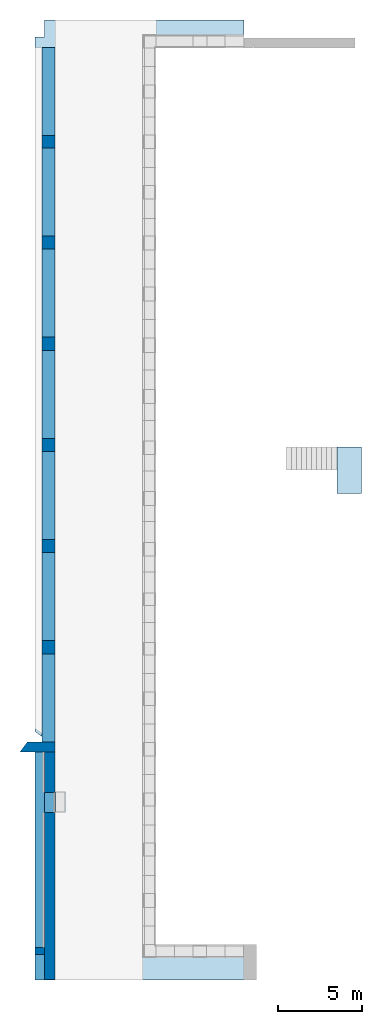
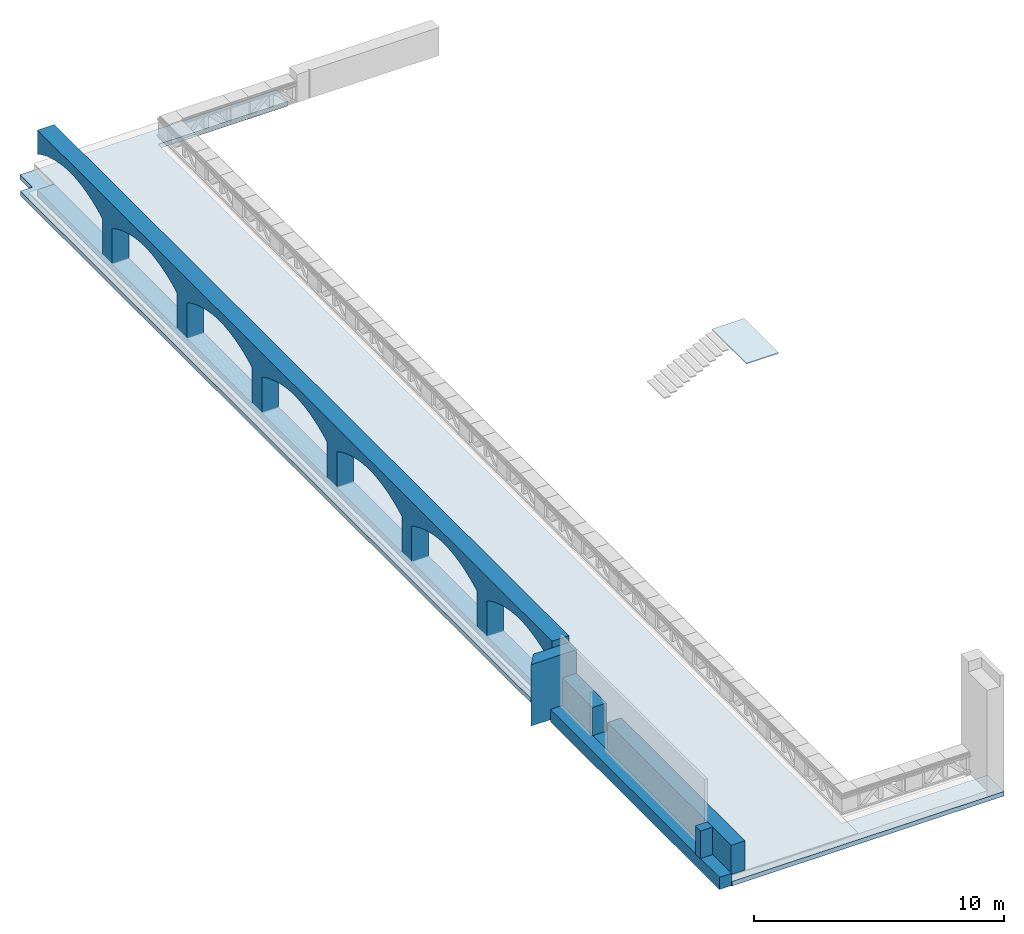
# One storey, part 1 of 9: 4 walls, 3 slabs, 16 openings, 2 elements without a shape of their own.
"""IFC2X3 building model written with IfcOpenShell, lengths in millimetres."""

import ifcopenshell
import ifcopenshell.guid

model = None  # the IFC model being written
_history = None  # IfcOwnerHistory: only IFC2X3 demands one
_inside = {}  # id of a spatial element -> (the spatial element, [elements in it])
_under = {}  # id of a project, library or spatial element -> (it, [spatial elements below it])
_declared = {}  # id of a project -> (the project, [libraries it declares])
_typed = {}  # id of a type object -> (the type object, [elements of that type])
_made_of = {}  # id of a material, layer set ... -> (it, [elements and type objects made of it])


def new_model(schema):
    """Start an empty IFC model of exactly this schema.

    Asked for "IFC4X3", IfcOpenShell would pick the latest addendum, in which some entities
    have other attributes; the version numbers below select the first issue.
    IFC2X3 requires an IfcOwnerHistory on every rooted entity: one is made here for all.
    """
    global model, _history
    if schema == "IFC4X3":
        model = ifcopenshell.file(schema_version=(4, 3, 0, 0))
    else:
        model = ifcopenshell.file(schema=schema)
    _inside.clear()
    _under.clear()
    _declared.clear()
    _typed.clear()
    _made_of.clear()
    _history = None
    if model.schema == "IFC2X3":
        org = make("IfcOrganization", Name="unknown")
        user = make(
            "IfcPersonAndOrganization",
            ThePerson=make("IfcPerson", FamilyName="unknown"),
            TheOrganization=org,
        )
        app = make(
            "IfcApplication",
            ApplicationDeveloper=org,
            Version="unknown",
            ApplicationFullName="unknown",
            ApplicationIdentifier="unknown",
        )
        _history = make(
            "IfcOwnerHistory",
            OwningUser=user,
            OwningApplication=app,
            ChangeAction="ADDED",
            CreationDate=0,
        )
    return model


def make(cls, **values):
    """One entity of the class cls with the attributes given. An attribute that is None is left unset."""
    return model.create_entity(
        cls, **{name: value for name, value in values.items() if value is not None}
    )


def entity(cls, *values):
    """Any entity or typed value of the class cls, its attributes in the order of the schema. None: left unset."""
    e = model.create_entity(cls)
    for i, value in enumerate(values):
        if value is not None:
            e[i] = value
    return e


def rooted(cls, **values):
    """An entity with a GlobalId (a new one), such as an element, a storey or a relation."""
    return make(cls, GlobalId=ifcopenshell.guid.new(), OwnerHistory=_history, **values)


def si_unit(unit_type, name, prefix=None):
    """IfcSIUnit, for example si_unit("LENGTHUNIT", "METRE", prefix="MILLI")."""
    return make("IfcSIUnit", UnitType=unit_type, Prefix=prefix, Name=name)


def converted_unit(unit_type, name, factor, base, dimensions=None, offset=None):
    """IfcConversionBasedUnit, such as the inch: factor (a typed value) times the base unit."""
    return make(
        "IfcConversionBasedUnit"
        if offset is None
        else "IfcConversionBasedUnitWithOffset",
        ConversionOffset=offset,
        Dimensions=None
        if dimensions is None
        else entity("IfcDimensionalExponents", *dimensions),
        UnitType=unit_type,
        Name=name,
        ConversionFactor=make(
            "IfcMeasureWithUnit", ValueComponent=factor, UnitComponent=base
        ),
    )


def derived_unit(unit_type, elements):
    """IfcDerivedUnit: a product of units, each with its exponent."""
    return make(
        "IfcDerivedUnit",
        Elements=[
            make("IfcDerivedUnitElement", Unit=unit, Exponent=power)
            for unit, power in elements
        ],
        UnitType=unit_type,
    )


def assignment(units):
    """IfcUnitAssignment: the units of a project."""
    return None if units is None else make("IfcUnitAssignment", Units=units)


def point(xyz):
    """IfcCartesianPoint."""
    return None if xyz is None else make("IfcCartesianPoint", Coordinates=xyz)


def direction(xyz):
    """IfcDirection."""
    return None if xyz is None else make("IfcDirection", DirectionRatios=xyz)


def frame(location, z_axis=None, x_axis=None):
    """IfcAxis2Placement3D, a coordinate frame: its origin and axes. An axis left out is left unset."""
    return make(
        "IfcAxis2Placement3D",
        Location=point(location),
        Axis=direction(z_axis),
        RefDirection=direction(x_axis),
    )


def frame_2d(location, x_axis=None):
    """IfcAxis2Placement2D, a coordinate frame in the plane: its origin and x axis."""
    return make(
        "IfcAxis2Placement2D", Location=point(location), RefDirection=direction(x_axis)
    )


def origin():
    """The frame at (0, 0, 0) with its axes left unset."""
    return frame((0.0, 0.0, 0.0))


def place(relative_to, where):
    """IfcLocalPlacement: puts the frame where relative to a parent placement (None: the world)."""
    return make(
        "IfcLocalPlacement", PlacementRelTo=relative_to, RelativePlacement=where
    )


def context(
    kind, dimensions, precision=None, world=None, true_north=None, identifier=None
):
    """IfcGeometricRepresentationContext, for example the 3D "Model" context."""
    return make(
        "IfcGeometricRepresentationContext",
        ContextIdentifier=identifier,
        ContextType=kind,
        CoordinateSpaceDimension=dimensions,
        Precision=precision,
        WorldCoordinateSystem=world,
        TrueNorth=true_north,
    )


def subcontext(parent, identifier, kind, view, scale=None):
    """IfcGeometricRepresentationSubContext, for example "Body" below "Model"."""
    return make(
        "IfcGeometricRepresentationSubContext",
        ContextIdentifier=identifier,
        ContextType=kind,
        ParentContext=parent,
        TargetScale=scale,
        TargetView=view,
    )


def project(units=None, contexts=None):
    """IfcProject with its units and contexts."""
    return rooted(
        "IfcProject",
        Name="project",
        RepresentationContexts=contexts,
        UnitsInContext=assignment(units),
    )


def spatial(cls, under=None, at=None, **own):
    """A site, building, storey or space (cls), placed at a placement, below another one or the project."""
    s = rooted(cls, ObjectPlacement=at, **own)
    if under is not None:
        _under.setdefault(under.id(), (under, []))[1].append(s)
    return s


def polyline(points):
    """IfcPolyline through the points."""
    return make("IfcPolyline", Points=[point(p) for p in points])


def circle_curve(where, radius):
    """IfcCircle in the frame where."""
    return make("IfcCircle", Position=where, Radius=radius)


def parameter(value):
    """IfcParameterValue: where a trimmed curve begins or ends, as a parameter of its basis curve."""
    return model.create_entity("IfcParameterValue", value)


def trimmed(basis, trim1, trim2, sense, master):
    """IfcTrimmedCurve: the piece of a basis curve between two trims."""
    return make(
        "IfcTrimmedCurve",
        BasisCurve=basis,
        Trim1=trim1,
        Trim2=trim2,
        SenseAgreement=sense,
        MasterRepresentation=master,
    )


def segment(curve, same_sense, transition):
    """IfcCompositeCurveSegment."""
    return make(
        "IfcCompositeCurveSegment",
        Transition=transition,
        SameSense=same_sense,
        ParentCurve=curve,
    )


def composite_curve(segments, self_intersect=None):
    """IfcCompositeCurve: segments joined end to end."""
    return make("IfcCompositeCurve", Segments=segments, SelfIntersect=self_intersect)


def profile(cls, at=None, kind="AREA", **sizes):
    """A parametric profile (cls). Its sizes go by their IFC names, for example OverallWidth=200.0."""
    return make(cls, ProfileType=kind, Position=at, **sizes)


def rectangle(**sizes):
    """IfcRectangleProfileDef."""
    return profile("IfcRectangleProfileDef", **sizes)


def outline(outer, holes=None, kind="AREA"):
    """IfcArbitraryClosedProfileDef: a profile drawn as a closed curve; with holes, ...WithVoids."""
    if holes is None:
        return make("IfcArbitraryClosedProfileDef", ProfileType=kind, OuterCurve=outer)
    return make(
        "IfcArbitraryProfileDefWithVoids",
        ProfileType=kind,
        OuterCurve=outer,
        InnerCurves=holes,
    )


def extrude(swept, where, along, depth):
    """IfcExtrudedAreaSolid: the profile swept, set in the frame where, extruded along a direction by depth."""
    return make(
        "IfcExtrudedAreaSolid",
        SweptArea=swept,
        Position=where,
        ExtrudedDirection=direction(along),
        Depth=depth,
    )


def faces_of(points, faces, orient=None, outer=None):
    """IfcFace entities. A face is a list of loops; a loop is a list of indices into points, from 0.

    orient and outer hold one flag for each loop. By default every Orientation is true, the
    first loop of a face is its IfcFaceOuterBound and the others are IfcFaceBound.
    """
    made = []
    for i, loops in enumerate(faces):
        bounds = []
        for j, loop in enumerate(loops):
            is_outer = j == 0 if outer is None else outer[i][j]
            bounds.append(
                make(
                    "IfcFaceOuterBound" if is_outer else "IfcFaceBound",
                    Bound=make("IfcPolyLoop", Polygon=[points[k] for k in loop]),
                    Orientation=True if orient is None else orient[i][j],
                )
            )
        made.append(make("IfcFace", Bounds=bounds))
    return made


def faceted_brep(points, faces, orient=None, outer=None, voids=None):
    """IfcFacetedBrep: a solid bounded by flat faces; with voids (closed shells), ...WithVoids."""
    shared = [point(p) for p in points]
    hull = make("IfcClosedShell", CfsFaces=faces_of(shared, faces, orient, outer))
    if voids is None:
        return make("IfcFacetedBrep", Outer=hull)
    return make(
        "IfcFacetedBrepWithVoids",
        Outer=hull,
        Voids=[
            make(cls, CfsFaces=faces_of(shared, fs, o, b)) for cls, fs, o, b in voids
        ],
    )


def shape(context_of_items, identifier, shape_type, items):
    """IfcShapeRepresentation: the items that make up one representation, for example the "Body"."""
    return make(
        "IfcShapeRepresentation",
        ContextOfItems=context_of_items,
        RepresentationIdentifier=identifier,
        RepresentationType=shape_type,
        Items=items,
    )


def material(Name=None, Category=None):
    """IfcMaterial."""
    return make("IfcMaterial", Name=Name, Category=Category)


def layer(
    of_material, thickness, ventilated=None, Name=None, Category=None, Priority=None
):
    """IfcMaterialLayer: one layer of a wall or slab, of a material (None: an air gap)."""
    return make(
        "IfcMaterialLayer",
        Material=of_material,
        LayerThickness=thickness,
        IsVentilated=ventilated,
        Name=Name,
        Category=Category,
        Priority=Priority,
    )


def layer_set(layers, Name=None):
    """IfcMaterialLayerSet."""
    return make("IfcMaterialLayerSet", MaterialLayers=layers, LayerSetName=Name)


def layer_usage(for_layer_set, set_direction, sense, offset, extent=None):
    """IfcMaterialLayerSetUsage: how a layer set lies in its element."""
    return make(
        "IfcMaterialLayerSetUsage",
        ForLayerSet=for_layer_set,
        LayerSetDirection=set_direction,
        DirectionSense=sense,
        OffsetFromReferenceLine=offset,
        ReferenceExtent=extent,
    )


def made_of(thing, what):
    """Note that an element or type object is made of a material, layer set ...; save() writes the relation."""
    if what is not None:
        _made_of.setdefault(what.id(), (what, []))[1].append(thing)
    return thing


def type_object(cls, material=None, **own):
    """A type object (cls), such as IfcWallType, which elements share."""
    return made_of(rooted(cls, **own), material)


def element(
    cls,
    number,
    at=None,
    inside=None,
    cuts=None,
    type_object=None,
    material=None,
    context=None,
    identifier="Body",
    shape_type=None,
    held_by="IfcProductDefinitionShape",
    body=None,
    shapes=None,
    **own,
):
    """One element of the class cls, such as IfcWall. Its Tag is "e" and its number.

    at: its placement. inside: the storey or other place that contains it. cuts: it is an
    opening in that element (IfcRelVoidsElement). A single representation is given by context,
    identifier, shape_type and body (its items); several are given by shapes. held_by: the class
    of the entity that holds the representations. save() writes the other relations.
    """
    e = rooted(cls, Tag="e%d" % number, ObjectPlacement=at, **own)
    if body is not None:
        shapes = [shape(context, identifier, shape_type, body)]
    if shapes is not None:
        e.Representation = make(held_by, Representations=shapes)
    if inside is not None:
        _inside.setdefault(inside.id(), (inside, []))[1].append(e)
    if cuts is not None:
        rooted(
            "IfcRelVoidsElement", RelatingBuildingElement=cuts, RelatedOpeningElement=e
        )
    if type_object is not None:
        _typed.setdefault(type_object.id(), (type_object, []))[1].append(e)
    return made_of(e, material)


def aggregate(whole, parts):
    """IfcRelAggregates: a whole, such as a stair, and the parts it consists of."""
    return rooted("IfcRelAggregates", RelatingObject=whole, RelatedObjects=parts)


def save(model, path):
    """Write the relations noted so far, then the file.

    IfcRelAggregates (storeys below a building ...), IfcRelContainedInSpatialStructure (elements
    in a storey), IfcRelDefinesByType, IfcRelAssociatesMaterial and IfcRelDeclares: one each for
    every whole, place, type object, material and project.
    """
    for whole, parts in _under.values():
        aggregate(whole, parts)
    for where, things in _inside.values():
        rooted(
            "IfcRelContainedInSpatialStructure",
            RelatedElements=things,
            RelatingStructure=where,
        )
    for kind, things in _typed.values():
        rooted("IfcRelDefinesByType", RelatedObjects=things, RelatingType=kind)
    for what, things in _made_of.values():
        rooted("IfcRelAssociatesMaterial", RelatedObjects=things, RelatingMaterial=what)
    for by, libraries in _declared.values():
        rooted("IfcRelDeclares", RelatingContext=by, RelatedDefinitions=libraries)
    model.write(path)


model = new_model("IFC2X3")

# Units and contexts
model_context = context("Model", 3, precision=0.01, world=origin(), true_north=direction((6.123031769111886e-17, 1.0)))
body_context = subcontext(model_context, "Body", "Model", "MODEL_VIEW")
ifc_project = project(units=[si_unit("LENGTHUNIT", "METRE", prefix="MILLI"), si_unit("AREAUNIT", "SQUARE_METRE"), si_unit("VOLUMEUNIT", "CUBIC_METRE"), converted_unit("PLANEANGLEUNIT", "DEGREE", entity("IfcPlaneAngleMeasure", 0.017453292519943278), si_unit("PLANEANGLEUNIT", "RADIAN"), dimensions=[0, 0, 0, 0, 0, 0, 0]), si_unit("MASSUNIT", "GRAM", prefix="KILO"), derived_unit("MASSDENSITYUNIT", [(si_unit("MASSUNIT", "GRAM", prefix="KILO"), 1), (si_unit("LENGTHUNIT", "METRE"), -3)]), derived_unit("IONCONCENTRATIONUNIT", [(si_unit("MASSUNIT", "GRAM", prefix="KILO"), 1), (si_unit("LENGTHUNIT", "METRE"), -3)]), derived_unit("MOMENTOFINERTIAUNIT", [(si_unit("LENGTHUNIT", "METRE"), 4)]), si_unit("TIMEUNIT", "SECOND"), si_unit("FREQUENCYUNIT", "HERTZ"), si_unit("THERMODYNAMICTEMPERATUREUNIT", "DEGREE_CELSIUS"), derived_unit("THERMALTRANSMITTANCEUNIT", [(si_unit("MASSUNIT", "GRAM", prefix="KILO"), 1), (si_unit("THERMODYNAMICTEMPERATUREUNIT", "KELVIN"), -1), (si_unit("TIMEUNIT", "SECOND"), -3)]), derived_unit("THERMALCONDUCTANCEUNIT", [(si_unit("MASSUNIT", "GRAM", prefix="KILO"), 1), (si_unit("THERMODYNAMICTEMPERATUREUNIT", "KELVIN"), -1), (si_unit("TIMEUNIT", "SECOND"), -3), (si_unit("LENGTHUNIT", "METRE"), 1)]), derived_unit("VOLUMETRICFLOWRATEUNIT", [(si_unit("LENGTHUNIT", "METRE", prefix="DECI"), 3), (si_unit("TIMEUNIT", "SECOND"), -1)]), derived_unit("MASSFLOWRATEUNIT", [(si_unit("MASSUNIT", "GRAM", prefix="KILO"), 1), (si_unit("TIMEUNIT", "SECOND"), -1)]), derived_unit("ROTATIONALFREQUENCYUNIT", [(si_unit("TIMEUNIT", "SECOND"), -1)]), si_unit("ELECTRICCURRENTUNIT", "AMPERE"), si_unit("ELECTRICVOLTAGEUNIT", "VOLT"), si_unit("POWERUNIT", "WATT"), si_unit("FORCEUNIT", "NEWTON", prefix="KILO"), si_unit("ILLUMINANCEUNIT", "LUX"), si_unit("LUMINOUSFLUXUNIT", "LUMEN"), si_unit("LUMINOUSINTENSITYUNIT", "CANDELA"), si_unit("ENERGYUNIT", "JOULE"), derived_unit("USERDEFINED", [(si_unit("MASSUNIT", "GRAM", prefix="KILO"), -1), (si_unit("LENGTHUNIT", "METRE"), -2), (si_unit("TIMEUNIT", "SECOND"), 3), (si_unit("LUMINOUSFLUXUNIT", "LUMEN"), 1)]), derived_unit("USERDEFINED", [(si_unit("MASSUNIT", "GRAM", prefix="KILO"), 1), (si_unit("TIMEUNIT", "SECOND"), -3), (si_unit("LENGTHUNIT", "METRE"), 3), (si_unit("ELECTRICCURRENTUNIT", "AMPERE"), -2)]), derived_unit("SOUNDPOWERUNIT", [(si_unit("MASSUNIT", "GRAM", prefix="KILO"), 1), (si_unit("TIMEUNIT", "SECOND"), -3), (si_unit("LENGTHUNIT", "METRE"), 2)]), derived_unit("SOUNDPRESSUREUNIT", [(si_unit("MASSUNIT", "GRAM", prefix="KILO"), 1), (si_unit("LENGTHUNIT", "METRE"), -1), (si_unit("TIMEUNIT", "SECOND"), -2)]), derived_unit("LINEARVELOCITYUNIT", [(si_unit("LENGTHUNIT", "METRE"), 1), (si_unit("TIMEUNIT", "SECOND"), -1)]), si_unit("PRESSUREUNIT", "PASCAL"), derived_unit("USERDEFINED", [(si_unit("MASSUNIT", "GRAM", prefix="KILO"), 1), (si_unit("LENGTHUNIT", "METRE"), -2), (si_unit("TIMEUNIT", "SECOND"), -2)]), derived_unit("LINEARFORCEUNIT", [(si_unit("MASSUNIT", "GRAM", prefix="KILO"), 1), (si_unit("TIMEUNIT", "SECOND"), -2)]), derived_unit("PLANARFORCEUNIT", [(si_unit("MASSUNIT", "GRAM", prefix="KILO"), 1), (si_unit("LENGTHUNIT", "METRE"), -1), (si_unit("TIMEUNIT", "SECOND"), -2)]), derived_unit("SPECIFICHEATCAPACITYUNIT", [(si_unit("THERMODYNAMICTEMPERATUREUNIT", "KELVIN"), -1), (si_unit("LENGTHUNIT", "METRE"), 2), (si_unit("TIMEUNIT", "SECOND"), -2)]), derived_unit("HEATFLUXDENSITYUNIT", [(si_unit("MASSUNIT", "GRAM", prefix="KILO"), 1), (si_unit("TIMEUNIT", "SECOND"), -3)]), derived_unit("HEATINGVALUEUNIT", [(si_unit("LENGTHUNIT", "METRE"), 2), (si_unit("TIMEUNIT", "SECOND"), -2)]), derived_unit("VAPORPERMEABILITYUNIT", [(si_unit("LENGTHUNIT", "METRE"), -1), (si_unit("TIMEUNIT", "SECOND"), 1)]), derived_unit("DYNAMICVISCOSITYUNIT", [(si_unit("MASSUNIT", "GRAM", prefix="KILO"), 1), (si_unit("TIMEUNIT", "SECOND"), -1), (si_unit("LENGTHUNIT", "METRE"), -1)]), derived_unit("THERMALEXPANSIONCOEFFICIENTUNIT", [(si_unit("THERMODYNAMICTEMPERATUREUNIT", "KELVIN"), -1)]), derived_unit("MODULUSOFELASTICITYUNIT", [(si_unit("MASSUNIT", "GRAM", prefix="KILO"), 1), (si_unit("LENGTHUNIT", "METRE"), -1), (si_unit("TIMEUNIT", "SECOND"), -2)]), derived_unit("ISOTHERMALMOISTURECAPACITYUNIT", [(si_unit("MASSUNIT", "GRAM", prefix="KILO"), -1), (si_unit("LENGTHUNIT", "METRE"), 3)]), derived_unit("MOISTUREDIFFUSIVITYUNIT", [(si_unit("TIMEUNIT", "SECOND"), -1), (si_unit("LENGTHUNIT", "METRE"), 2)]), derived_unit("MASSPERLENGTHUNIT", [(si_unit("MASSUNIT", "GRAM", prefix="KILO"), 1), (si_unit("LENGTHUNIT", "METRE"), -1)]), derived_unit("THERMALRESISTANCEUNIT", [(si_unit("MASSUNIT", "GRAM", prefix="KILO"), -1), (si_unit("TIMEUNIT", "SECOND"), 3), (si_unit("THERMODYNAMICTEMPERATUREUNIT", "KELVIN"), 1)]), derived_unit("ACCELERATIONUNIT", [(si_unit("LENGTHUNIT", "METRE"), 1), (si_unit("TIMEUNIT", "SECOND"), -2)]), derived_unit("ANGULARVELOCITYUNIT", [(si_unit("TIMEUNIT", "SECOND"), -1), (si_unit("PLANEANGLEUNIT", "RADIAN"), 1)]), derived_unit("LINEARSTIFFNESSUNIT", [(si_unit("MASSUNIT", "GRAM", prefix="KILO"), 1), (si_unit("TIMEUNIT", "SECOND"), -2)]), derived_unit("WARPINGCONSTANTUNIT", [(si_unit("LENGTHUNIT", "METRE"), 6)]), derived_unit("LINEARMOMENTUNIT", [(si_unit("MASSUNIT", "GRAM", prefix="KILO"), 1), (si_unit("LENGTHUNIT", "METRE"), 1), (si_unit("TIMEUNIT", "SECOND"), -2)]), derived_unit("TORQUEUNIT", [(si_unit("MASSUNIT", "GRAM", prefix="KILO"), 1), (si_unit("LENGTHUNIT", "METRE"), 2), (si_unit("TIMEUNIT", "SECOND"), -2)])], contexts=[model_context])

# Site, building, storey
site_placement = place(None, origin())
site = spatial("IfcSite", under=ifc_project, at=site_placement, Name="Default", CompositionType="ELEMENT")
building_placement = place(site_placement, origin())
building = spatial("IfcBuilding", under=site, at=building_placement, Name="Eesti Rahvusraamatukogu hoone renoveerimise projekteerimistööd", CompositionType="ELEMENT")
storey_placement = place(building_placement, frame((0.0, 0.0, 3100.0)))
storey = spatial("IfcBuildingStorey", under=building, at=storey_placement, Name="E-korpus 2. korrus", CompositionType="ELEMENT", Elevation=3100.0)

# Roof, slab
ifc_material = material(Name="ol. olev materjal")
ifc_layer_1 = layer(ifc_material, 220.0)
ifc_layer_set_1 = layer_set([ifc_layer_1], Name="Basic Roof:ol. olev - 220mm")
roof_placement = place(storey_placement, frame((-49781.62808124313, -1321.279790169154, -120.0)))
roof = element("IfcRoof", 1, at=roof_placement, inside=storey, material=ifc_layer_set_1, Name="Basic Roof:ol. olev - 220mm", ObjectType="Basic Roof:ol. olev - 220mm", ShapeType="NOTDEFINED")
slab_type_1 = type_object("IfcSlabType", Name="Basic Roof:ol. olev - 220mm", PredefinedType="ROOF")
slab_1_placement = place(storey_placement, frame((-49781.62808124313, -1321.279790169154, -120.0)))
slab_1 = element("IfcSlab", 2, at=slab_1_placement, type_object=slab_type_1, Name="Basic Roof:ol. olev - 220mm:1", ObjectType="Basic Roof:ol. olev - 220mm", PredefinedType="ROOF", context=body_context, shape_type="SweptSolid", body=[
    extrude(outline(polyline([(-4198.601194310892, -28473.943230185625), (8377.613991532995, -28473.943230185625), (8377.613991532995, -27152.66344001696), (1637.6139915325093, -27152.66344001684), (1637.6139915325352, 27557.712839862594), (7637.613991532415, 27557.712839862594), (7637.613991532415, 28493.258547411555), (-4212.3860084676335, 28493.258547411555), (-4212.3860084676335, 27493.136559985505), (-4774.01408971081, 27493.136559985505), (-4774.01408971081, -13599.770210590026), (-4774.01408971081, -13724.983776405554), (-4180.027035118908, -14172.585127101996), (-4180.241433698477, -14337.663440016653), (-4198.601194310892, -28473.943230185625)])), frame((4774.01408971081, 28473.94323018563, 0.0)), (0.0, 0.0, 1.0), 219.9999999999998),
])
aggregate(roof, [slab_1])

# Slab
ifc_layer_2 = layer(ifc_material, 600.0)
ifc_layer_set_2 = layer_set([ifc_layer_2], Name="Floor:ol. olev - 600mm")
ifc_layer_usage_1 = layer_usage(ifc_layer_set_2, "AXIS3", "POSITIVE", 0.0)
slab_type_2 = type_object("IfcSlabType", Name="Floor:ol. olev - 600mm", PredefinedType="FLOOR", material=ifc_layer_set_2)
slab_2_placement = place(storey_placement, origin())
element("IfcSlab", 3, at=slab_2_placement, inside=storey, type_object=slab_type_2, material=ifc_layer_usage_1, Name="Floor:ol. olev - 600mm", ObjectType="Floor:ol. olev - 600mm", PredefinedType="FLOOR", context=body_context, shape_type="SweptSolid", body=[
    extrude(rectangle(XDim=13536.27979016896, YDim=561.6280812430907, at=frame_2d((0.0, 8.668621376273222e-12), x_axis=(1.0, 0.0))), frame((-49500.814040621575, 5446.8601049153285, 505.0), z_axis=(0.0, 0.0, -1.0), x_axis=(0.0, 1.0, 0.0)), (0.0, 0.0, 1.0), 600.0000000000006),
])

# Stair, slab
stair_placement = place(storey_placement, origin())
stair = element("IfcStair", 4, at=stair_placement, inside=storey, Name="Assembled Stair:Stair", ObjectType="Assembled Stair:ol. olev trepp 50", ShapeType="STRAIGHT_RUN_STAIR")
slab_type_3 = type_object("IfcSlabType", Name="Non-Monolithic Landing:Non-Monolithic Landing", PredefinedType="LANDING")
slab_3_placement = place(stair_placement, frame((-31870.0, 27545.0, 0.0)))
slab_3 = element("IfcSlab", 5, at=slab_3_placement, type_object=slab_type_3, material=ifc_material, Name="Assembled Stair:Stair:4087618 Landing 1", ObjectType="Non-Monolithic Landing:Non-Monolithic Landing", PredefinedType="LANDING", context=body_context, shape_type="SweptSolid", body=[
    extrude(rectangle(XDim=2760.000000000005, YDim=1480.000000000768, at=frame_2d((2.00000000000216, 148.0000000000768), x_axis=(1.0, 0.0))), frame((592.0, 1382.0, 1800.0), z_axis=(0.0, 0.0, 1.0), x_axis=(0.0, -1.0, 0.0)), (0.0, 0.0, 1.0), 49.99999999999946),
])
aggregate(stair, [slab_3])

# Wall, openings
ifc_layer_3 = layer(ifc_material, 600.0)
ifc_layer_set_3 = layer_set([ifc_layer_3], Name="Basic Wall:ol. olev - 600mm")
ifc_layer_usage_2 = layer_usage(ifc_layer_set_3, "AXIS2", "NEGATIVE", 300.0)
wall_type_1 = type_object("IfcWallType", Name="Basic Wall:ol. olev - 600mm", PredefinedType="STANDARD", material=ifc_layer_set_3)
wall_1_placement = place(storey_placement, frame((-48580.0, 12515.0, 0.0), z_axis=(0.0, 0.0, 1.0), x_axis=(-1.0, 0.0, 0.0)))
wall_1 = element("IfcWallStandardCase", 6, at=wall_1_placement, inside=storey, type_object=wall_type_1, material=ifc_layer_usage_2, Name="Basic Wall:ol. olev - 600mm", ObjectType="Basic Wall:ol. olev - 600mm", context=body_context, shape_type="SweptSolid", body=[
    extrude(outline(polyline([(1639.8146096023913, -300.0), (2088.469057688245, 300.0), (1339.2756155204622, 300.0), (0.0, 300.0), (0.0, -300.0), (1639.8146096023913, -300.0)])), origin(), (0.0, 0.0, 1.0), 3000.0000000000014),
])
opening_1_placement = place(wall_1_placement, frame((-48580.0, 12515.0, 673.5021096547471)))
element("IfcOpeningElement", 7, at=opening_1_placement, cuts=wall_1, Name="Basic Wall:ol. olev - 600mm", ObjectType="Recess", context=body_context, shape_type="SweptSolid", body=[
    extrude(rectangle(XDim=372.5970028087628, YDim=269.99999999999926, at=frame_2d((-4.320099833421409e-12, 2.7000623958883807e-13), x_axis=(0.0, 1.0))), frame((48715.0, -12320.202064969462, 186.29850140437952), z_axis=(0.0, 1.0, 0.0), x_axis=(-1.0, 0.0, 0.0)), (0.0, 0.0, 1.0), 325.20206496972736),
])
opening_2_placement = place(wall_1_placement, frame((-48580.0, 12515.0, 400.0)))
element("IfcOpeningElement", 8, at=opening_2_placement, cuts=wall_1, Name="Basic Wall:ol. olev - 600mm", ObjectType="Recess", context=body_context, shape_type="Brep", body=[
    faceted_brep([(48580.0, -18032.876279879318, 0.0), (48580.0, -18032.87627987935, 1740.0), (48580.0, -17590.019411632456, 1965.1089561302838), (48580.0, -17128.54476166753, 2149.0583929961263), (48580.0, -16769.175395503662, 2246.8178757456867), (48580.0, -16409.806029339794, 2344.5773584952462), (48580.0, -15918.740244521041, 2419.748116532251), (48580.0, -15422.87627987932, 2450.0), (48580.0, -14927.012315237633, 2419.7481165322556), (48580.0, -14435.946530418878, 2344.5773584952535), (48580.0, -14076.577164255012, 2246.817875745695), (48580.0, -13717.207798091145, 2149.0583929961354), (48580.0, -13255.73314812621, 1965.1089561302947), (48580.0, -12812.87627987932, 1740.0), (48580.0, -12812.87627987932, 0.0), (49360.0, -12812.876279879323, 0.0), (49360.0, -12812.876279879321, 1740.0), (49360.0, -13255.733148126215, 1965.1089561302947), (49360.0, -13717.207798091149, 2149.0583929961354), (49360.0, -14076.577164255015, 2246.817875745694), (49360.0, -14435.946530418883, 2344.5773584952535), (49360.0, -14927.012315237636, 2419.7481165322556), (49360.0, -15422.87627987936, 2450.0), (49360.0, -15918.740244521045, 2419.748116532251), (49360.0, -16409.806029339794, 2344.5773584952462), (49360.0, -16769.175395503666, 2246.8178757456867), (49360.0, -17128.54476166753, 2149.0583929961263), (49360.0, -17590.01941163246, 1965.1089561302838), (49360.0, -18032.87627987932, 1740.0), (49360.0, -18032.87627987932, 0.0)], [[[0, 1, 2, 3, 4, 5, 6, 7, 8, 9, 10, 11, 12, 13, 14]], [[15, 16, 17, 18, 19, 20, 21, 22, 23, 24, 25, 26, 27, 28, 29]], [[1, 0, 29, 28]], [[2, 1, 28, 27]], [[3, 2, 27, 26]], [[5, 4, 3, 26, 25, 24]], [[6, 5, 24, 23]], [[7, 6, 23, 22]], [[8, 7, 22, 21]], [[9, 8, 21, 20]], [[11, 10, 9, 20, 19, 18]], [[12, 11, 18, 17]], [[13, 12, 17, 16]], [[14, 13, 16, 15]], [[0, 14, 15, 29]]]),
])

ifc_layer_4 = layer(ifc_material, 640.0)
ifc_layer_set_4 = layer_set([ifc_layer_4], Name="Basic Wall:ol. olev - 640mm")
ifc_layer_usage_3 = layer_usage(ifc_layer_set_4, "AXIS2", "NEGATIVE", 320.0)
wall_type_2 = type_object("IfcWallType", Name="Basic Wall:ol. olev - 640mm", PredefinedType="STANDARD", material=ifc_layer_set_4)
wall_2_placement = place(storey_placement, frame((-48900.0, -1285.0, 420.0), z_axis=(0.0, 0.0, 1.0), x_axis=(0.0, 1.0, 0.0)))
wall_2 = element("IfcWallStandardCase", 9, at=wall_2_placement, inside=storey, type_object=wall_type_2, material=ifc_layer_usage_3, Name="Basic Wall:ol. olev - 640mm", ObjectType="Basic Wall:ol. olev - 640mm", context=body_context, shape_type="SweptSolid", body=[
    extrude(rectangle(XDim=13499.999999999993, YDim=640.0000000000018, at=frame_2d((6749.999999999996, -5.286437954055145e-12), x_axis=(-1.0, 0.0))), origin(), (0.0, 0.0, 1.0), 1430.0000000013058),
])
opening_3_placement = place(wall_2_placement, frame((1285.0, -48900.0, 253.50210965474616)))
element("IfcOpeningElement", 10, at=opening_3_placement, cuts=wall_2, Name="Basic Wall:ol. olev - 640mm", ObjectType="Recess", context=body_context, shape_type="SweptSolid", body=[
    extrude(rectangle(XDim=372.5970028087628, YDim=325.20206496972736, at=frame_2d((-2.7000623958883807e-13, -1.0800249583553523e-12), x_axis=(1.0, 0.0))), frame((12157.601032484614, 48580.0, 186.29850140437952), z_axis=(0.0, 1.0, 0.0), x_axis=(0.0, 0.0, -1.0)), (0.0, 0.0, 1.0), 269.99999999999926),
])
opening_4_placement = place(wall_2_placement, frame((1285.0, -48900.0, 60.0)))
element("IfcOpeningElement", 11, at=opening_4_placement, cuts=wall_2, Name="Basic Wall:ol. olev - 640mm", ObjectType="Opening", context=body_context, shape_type="SweptSolid", body=[
    extrude(outline(composite_curve([segment(polyline([(-1340.0, -600.0), (760.0, -600.0)]), True, "CONTINUOUS"), segment(trimmed(circle_curve(frame_2d((510.0, 0.0), x_axis=(0.0, -1.0)), 650.0000000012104), [parameter(22.619864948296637)], [parameter(89.99999999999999)], True, "PARAMETER"), True, "CONTINUOUS"), segment(trimmed(circle_curve(frame_2d((510.0, 0.0), x_axis=(0.0, -1.0)), 650.0000000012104), [parameter(89.99999999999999)], [parameter(157.38013505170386)], True, "PARAMETER"), True, "CONTINUOUS"), segment(polyline([(760.0, 600.0), (-1340.0, 600.0)]), True, "CONTINUOUS"), segment(polyline([(-1340.0, 600.0), (-1340.0, -600.0)]), True, "CONTINUOUS")], self_intersect=False)), frame((-9204.0, 47696.0, 1340.0), z_axis=(0.0, 1.0, 0.0), x_axis=(0.0, 0.0, 1.0)), (0.0, 0.0, 1.0), 3048.0),
])
opening_5_placement = place(wall_2_placement, frame((1285.0, -48900.0, 60.0)))
element("IfcOpeningElement", 12, at=opening_5_placement, cuts=wall_2, Name="Basic Wall:ol. olev - 640mm", ObjectType="Opening", context=body_context, shape_type="SweptSolid", body=[
    extrude(outline(composite_curve([segment(polyline([(-1340.0, -600.0), (760.0, -600.0)]), True, "CONTINUOUS"), segment(trimmed(circle_curve(frame_2d((510.0, 0.0), x_axis=(0.0, -1.0)), 650.0000000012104), [parameter(22.619864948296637)], [parameter(89.99999999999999)], True, "PARAMETER"), True, "CONTINUOUS"), segment(trimmed(circle_curve(frame_2d((510.0, 0.0), x_axis=(0.0, -1.0)), 650.0000000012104), [parameter(89.99999999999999)], [parameter(157.38013505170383)], True, "PARAMETER"), True, "CONTINUOUS"), segment(polyline([(760.0, 600.0), (-1340.0, 600.0)]), True, "CONTINUOUS"), segment(polyline([(-1340.0, 600.0), (-1340.0, -600.0)]), True, "CONTINUOUS")], self_intersect=False)), frame((-2644.0, 47696.0, 1340.0), z_axis=(0.0, 1.0, 0.0), x_axis=(0.0, 0.0, 1.0)), (0.0, 0.0, 1.0), 3048.0),
])
opening_6_placement = place(wall_2_placement, frame((1285.0, -48900.0, -420.0)))
element("IfcOpeningElement", 13, at=opening_6_placement, cuts=wall_2, Name="Basic Wall:ol. olev - 640mm", ObjectType="Opening", context=body_context, shape_type="SweptSolid", body=[
    extrude(rectangle(XDim=2400.0, YDim=150.00000000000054, at=frame_2d((0.0, 0.0), x_axis=(0.0, 1.0))), frame((-15001.215903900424, 49217.50000000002, 1200.0), z_axis=(0.0, 1.0, 0.0), x_axis=(1.0, 0.0, 0.0)), (0.0, 0.0, 1.0), 1319.9999999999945),
])
opening_7_placement = place(wall_2_placement, frame((1285.0, -48900.0, 85.0)))
element("IfcOpeningElement", 14, at=opening_7_placement, cuts=wall_2, Name="Basic Wall:ol. olev - 640mm", ObjectType="Opening", context=body_context, shape_type="SweptSolid", body=[
    extrude(rectangle(XDim=2099.9999999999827, YDim=150.00000000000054, at=frame_2d((0.0, -5.684341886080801e-13), x_axis=(0.0, 1.0))), frame((9890.0, 49345.0, 1050.0), z_axis=(0.0, 1.0, 0.0), x_axis=(1.0, 0.0, 0.0)), (0.0, 0.0, 1.0), 800.0),
])
opening_8_placement = place(wall_2_placement, frame((11100.0, 320.0, 60.0)))
element("IfcOpeningElement", 15, at=opening_8_placement, cuts=wall_2, Name="SMA_D01, 1-poolne, kaar klaasiga:VU-63_1200x2100 (kaar 400mm):1", ObjectType="Opening", context=body_context, shape_type="SweptSolid", body=[
    extrude(outline(composite_curve([segment(polyline([(0.0, 1200.0), (0.0, 0.0)]), True, "CONTINUOUS"), segment(polyline([(0.0, 0.0), (2100.0, 0.0)]), True, "CONTINUOUS"), segment(trimmed(circle_curve(frame_2d((1850.0, 600.0), x_axis=(0.0, 1.0)), 650.0000000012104), [parameter(202.61986494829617)], [parameter(270.0)], True, "PARAMETER"), True, "CONTINUOUS"), segment(trimmed(circle_curve(frame_2d((1850.0, 600.0), x_axis=(0.0, 1.0)), 650.0000000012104), [parameter(270.0)], [parameter(337.3801350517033)], True, "PARAMETER"), True, "CONTINUOUS"), segment(polyline([(2100.0, 1200.0), (0.0, 1200.0)]), True, "CONTINUOUS")], self_intersect=False)), frame((0.0, 0.0, 0.0), z_axis=(0.0, -1.0, 0.0), x_axis=(0.0, 0.0, 1.0)), (0.0, 0.0, 1.0), 640.0),
])
opening_9_placement = place(wall_2_placement, frame((1285.0, -48900.0, 60.0), z_axis=(0.0, 0.0, 1.0), x_axis=(0.0, -1.0, 0.0)))
element("IfcOpeningElement", 16, at=opening_9_placement, cuts=wall_2, Name="Basic Wall:ol. olev - 640mm", ObjectType="Opening", context=body_context, shape_type="SweptSolid", body=[
    extrude(outline(composite_curve([segment(polyline([(-1338.0, -425.0), (762.0, -425.0)]), True, "CONTINUOUS"), segment(trimmed(circle_curve(frame_2d((725.4294871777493, 0.0), x_axis=(0.0, -1.0)), 426.57051282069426), [parameter(4.918087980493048)], [parameter(89.99999999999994)], True, "PARAMETER"), True, "CONTINUOUS"), segment(trimmed(circle_curve(frame_2d((725.4294871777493, 0.0), x_axis=(0.0, -1.0)), 426.5705128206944), [parameter(89.99999999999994)], [parameter(175.0819120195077)], True, "PARAMETER"), True, "CONTINUOUS"), segment(polyline([(762.0, 425.0), (-1338.0, 425.0)]), True, "CONTINUOUS"), segment(polyline([(-1338.0, 425.0), (-1338.0, -425.0)]), True, "CONTINUOUS")], self_intersect=False)), frame((-47696.0, 9385.0, 1338.0), z_axis=(-1.0, 0.0, 0.0), x_axis=(0.0, 0.0, 1.0)), (0.0, 0.0, 1.0), 3048.0),
])

# Wall
ifc_layer_5 = layer(ifc_material, 420.0)
ifc_layer_set_5 = layer_set([ifc_layer_5], Name="Basic Wall:ol. olev - 420mm")
ifc_layer_usage_4 = layer_usage(ifc_layer_set_5, "AXIS2", "NEGATIVE", 210.0)
wall_type_3 = type_object("IfcWallType", Name="Basic Wall:ol. olev - 420mm", PredefinedType="STANDARD", material=ifc_layer_set_5)
wall_3_placement = place(storey_placement, frame((-58906.57196809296, 406.0, 480.0)))
element("IfcWallStandardCase", 17, at=wall_3_placement, inside=storey, type_object=wall_type_3, material=ifc_layer_usage_4, Name="Basic Wall:ol. olev - 420mm", ObjectType="Basic Wall:ol. olev - 420mm", context=body_context, shape_type="SweptSolid", body=[
    extrude(rectangle(XDim=420.0, YDim=561.628081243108, at=frame_2d((1.4210854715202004e-14, -4.320099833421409e-12), x_axis=(1.0, 0.0))), frame((9405.757927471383, 0.0, 0.0), z_axis=(0.0, 0.0, 1.0), x_axis=(0.0, 1.0, 0.0)), (0.0, 0.0, 1.0), 1370.0000000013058),
])

# Wall, openings
ifc_layer_6 = layer(ifc_material, 780.0)
ifc_layer_set_6 = layer_set([ifc_layer_6], Name="Basic Wall:ol. olev - 780mm, MK")
ifc_layer_usage_5 = layer_usage(ifc_layer_set_6, "AXIS2", "NEGATIVE", 390.0)
wall_type_4 = type_object("IfcWallType", Name="Basic Wall:ol. olev - 780mm, MK", PredefinedType="STANDARD", material=ifc_layer_set_6)
wall_4_placement = place(storey_placement, frame((-48970.0, 54005.80000000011, 100.0), z_axis=(0.0, 0.0, 1.0), x_axis=(0.0, -1.0, 0.0)))
wall_4 = element("IfcWallStandardCase", 18, at=wall_4_placement, inside=storey, type_object=wall_type_4, material=ifc_layer_usage_5, Name="Basic Wall:ol. olev - 780mm, MK", ObjectType="Basic Wall:ol. olev - 780mm, MK", context=body_context, shape_type="SweptSolid", body=[
    extrude(rectangle(XDim=41190.80000000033, YDim=779.9999999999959, at=frame_2d((20595.400000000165, -2.8421709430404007e-13), x_axis=(-1.0, 0.0))), origin(), (0.0, 0.0, 1.0), 3220.8492146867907),
])
opening_10_placement = place(wall_4_placement, frame((54005.80000000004, 48970.0, 300.0)))
element("IfcOpeningElement", 19, at=opening_10_placement, cuts=wall_4, Name="Basic Wall:ol. olev - 780mm, MK", ObjectType="Opening", context=body_context, shape_type="SweptSolid", body=[
    extrude(outline(composite_curve([segment(polyline([(-1186.0, -2610.0), (554.0, -2610.0)]), True, "CONTINUOUS"), segment(trimmed(circle_curve(frame_2d((-4198.534220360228, 84.40586071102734), x_axis=(0.0, -1.0)), 5463.18629171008), [parameter(60.44932733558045)], [parameter(89.11474883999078)], True, "PARAMETER"), True, "CONTINUOUS"), segment(trimmed(circle_curve(frame_2d((-4198.534220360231, -84.40586071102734), x_axis=(0.0, -1.0)), 5463.186291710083), [parameter(90.88525116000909)], [parameter(119.55067266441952)], True, "PARAMETER"), True, "CONTINUOUS"), segment(polyline([(554.0, 2610.0), (-1186.0, 2610.0)]), True, "CONTINUOUS"), segment(polyline([(-1186.0, 2610.0), (-1186.0, -2610.0)]), True, "CONTINUOUS")], self_intersect=False)), frame((-51395.80000000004, -50104.0, 1186.0), z_axis=(0.0, 1.0, 0.0), x_axis=(0.0, 0.0, 1.0)), (0.0, 0.0, 1.0), 3048.0),
])
opening_11_placement = place(wall_4_placement, frame((54005.80000000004, 48970.0, 300.0)))
element("IfcOpeningElement", 20, at=opening_11_placement, cuts=wall_4, Name="Basic Wall:ol. olev - 780mm, MK", ObjectType="Opening", context=body_context, shape_type="SweptSolid", body=[
    extrude(outline(composite_curve([segment(polyline([(-1186.0, -2610.0), (554.0, -2610.0)]), True, "CONTINUOUS"), segment(trimmed(circle_curve(frame_2d((-4198.534220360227, 84.40586071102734), x_axis=(0.0, -1.0)), 5463.18629171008), [parameter(60.44932733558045)], [parameter(89.11474883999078)], True, "PARAMETER"), True, "CONTINUOUS"), segment(trimmed(circle_curve(frame_2d((-4198.53422036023, -84.40586071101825), x_axis=(0.0, -1.0)), 5463.186291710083), [parameter(90.88525116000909)], [parameter(119.55067266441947)], True, "PARAMETER"), True, "CONTINUOUS"), segment(polyline([(554.0, 2610.0), (-1186.0, 2610.0)]), True, "CONTINUOUS"), segment(polyline([(-1186.0, 2610.0), (-1186.0, -2610.0)]), True, "CONTINUOUS")], self_intersect=False)), frame((-15422.876279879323, -50104.0, 1186.0), z_axis=(0.0, 1.0, 0.0), x_axis=(0.0, 0.0, 1.0)), (0.0, 0.0, 1.0), 3048.0),
])
opening_12_placement = place(wall_4_placement, frame((54005.80000000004, 48970.0, 300.0)))
element("IfcOpeningElement", 21, at=opening_12_placement, cuts=wall_4, Name="Basic Wall:ol. olev - 780mm, MK", ObjectType="Opening", context=body_context, shape_type="SweptSolid", body=[
    extrude(outline(composite_curve([segment(polyline([(-1186.0, -2610.0), (554.0, -2610.0)]), True, "CONTINUOUS"), segment(trimmed(circle_curve(frame_2d((-4198.534220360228, 84.4058607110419), x_axis=(0.0, -1.0)), 5463.18629171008), [parameter(60.44932733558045)], [parameter(89.11474883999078)], True, "PARAMETER"), True, "CONTINUOUS"), segment(trimmed(circle_curve(frame_2d((-4198.534220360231, -84.40586071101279), x_axis=(0.0, -1.0)), 5463.186291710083), [parameter(90.88525116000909)], [parameter(119.55067266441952)], True, "PARAMETER"), True, "CONTINUOUS"), segment(polyline([(554.0, 2610.0), (-1186.0, 2610.0)]), True, "CONTINUOUS"), segment(polyline([(-1186.0, 2610.0), (-1186.0, -2610.0)]), True, "CONTINUOUS")], self_intersect=False)), frame((-45435.80000000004, -50104.0, 1186.0), z_axis=(0.0, 1.0, 0.0), x_axis=(0.0, 0.0, 1.0)), (0.0, 0.0, 1.0), 3048.0),
])
opening_13_placement = place(wall_4_placement, frame((54005.80000000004, 48970.0, 300.0)))
element("IfcOpeningElement", 22, at=opening_13_placement, cuts=wall_4, Name="Basic Wall:ol. olev - 780mm, MK", ObjectType="Opening", context=body_context, shape_type="SweptSolid", body=[
    extrude(outline(composite_curve([segment(polyline([(-1186.0, -2610.0), (554.0, -2610.0)]), True, "CONTINUOUS"), segment(trimmed(circle_curve(frame_2d((-4198.534220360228, 84.4058607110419), x_axis=(0.0, -1.0)), 5463.18629171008), [parameter(60.44932733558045)], [parameter(89.11474883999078)], True, "PARAMETER"), True, "CONTINUOUS"), segment(trimmed(circle_curve(frame_2d((-4198.534220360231, -84.40586071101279), x_axis=(0.0, -1.0)), 5463.186291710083), [parameter(90.88525116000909)], [parameter(119.55067266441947)], True, "PARAMETER"), True, "CONTINUOUS"), segment(polyline([(554.0, 2610.0), (-1186.0, 2610.0)]), True, "CONTINUOUS"), segment(polyline([(-1186.0, 2610.0), (-1186.0, -2610.0)]), True, "CONTINUOUS")], self_intersect=False)), frame((-39435.800000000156, -50104.0, 1186.0), z_axis=(0.0, 1.0, 0.0), x_axis=(0.0, 0.0, 1.0)), (0.0, 0.0, 1.0), 3048.0),
])
opening_14_placement = place(wall_4_placement, frame((54005.80000000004, 48970.0, 300.0)))
element("IfcOpeningElement", 23, at=opening_14_placement, cuts=wall_4, Name="Basic Wall:ol. olev - 780mm, MK", ObjectType="Opening", context=body_context, shape_type="SweptSolid", body=[
    extrude(outline(composite_curve([segment(polyline([(-1186.0, -2610.0), (554.0, -2610.0)]), True, "CONTINUOUS"), segment(trimmed(circle_curve(frame_2d((-4198.534220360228, 84.40586071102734), x_axis=(0.0, -1.0)), 5463.18629171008), [parameter(60.44932733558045)], [parameter(89.11474883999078)], True, "PARAMETER"), True, "CONTINUOUS"), segment(trimmed(circle_curve(frame_2d((-4198.534220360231, -84.40586071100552), x_axis=(0.0, -1.0)), 5463.186291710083), [parameter(90.88525116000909)], [parameter(119.55067266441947)], True, "PARAMETER"), True, "CONTINUOUS"), segment(polyline([(554.0, 2610.0), (-1186.0, 2610.0)]), True, "CONTINUOUS"), segment(polyline([(-1186.0, 2610.0), (-1186.0, -2610.0)]), True, "CONTINUOUS")], self_intersect=False)), frame((-33435.80000000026, -50104.0, 1186.0), z_axis=(0.0, 1.0, 0.0), x_axis=(0.0, 0.0, 1.0)), (0.0, 0.0, 1.0), 3048.0),
])
opening_15_placement = place(wall_4_placement, frame((54005.80000000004, 48970.0, 300.0)))
element("IfcOpeningElement", 24, at=opening_15_placement, cuts=wall_4, Name="Basic Wall:ol. olev - 780mm, MK", ObjectType="Opening", context=body_context, shape_type="SweptSolid", body=[
    extrude(outline(composite_curve([segment(polyline([(-1186.0, -2610.0), (554.0, -2610.0)]), True, "CONTINUOUS"), segment(trimmed(circle_curve(frame_2d((-4198.534220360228, 84.4058607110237), x_axis=(0.0, -1.0)), 5463.18629171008), [parameter(60.44932733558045)], [parameter(89.11474883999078)], True, "PARAMETER"), True, "CONTINUOUS"), segment(trimmed(circle_curve(frame_2d((-4198.534220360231, -84.40586071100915), x_axis=(0.0, -1.0)), 5463.186291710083), [parameter(90.88525116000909)], [parameter(119.55067266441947)], True, "PARAMETER"), True, "CONTINUOUS"), segment(polyline([(554.0, 2610.0), (-1186.0, 2610.0)]), True, "CONTINUOUS"), segment(polyline([(-1186.0, 2610.0), (-1186.0, -2610.0)]), True, "CONTINUOUS")], self_intersect=False)), frame((-27435.800000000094, -50104.0, 1186.0), z_axis=(0.0, 1.0, 0.0), x_axis=(0.0, 0.0, 1.0)), (0.0, 0.0, 1.0), 3048.0),
])
opening_16_placement = place(wall_4_placement, frame((54005.80000000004, 48970.0, 300.0)))
element("IfcOpeningElement", 25, at=opening_16_placement, cuts=wall_4, Name="Basic Wall:ol. olev - 780mm, MK", ObjectType="Opening", context=body_context, shape_type="SweptSolid", body=[
    extrude(outline(composite_curve([segment(polyline([(-1186.0, -2610.0), (554.0, -2610.0)]), True, "CONTINUOUS"), segment(trimmed(circle_curve(frame_2d((-4198.534220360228, 84.4058607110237), x_axis=(0.0, -1.0)), 5463.18629171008), [parameter(60.44932733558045)], [parameter(89.11474883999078)], True, "PARAMETER"), True, "CONTINUOUS"), segment(trimmed(circle_curve(frame_2d((-4198.534220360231, -84.40586071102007), x_axis=(0.0, -1.0)), 5463.186291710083), [parameter(90.88525116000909)], [parameter(119.55067266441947)], True, "PARAMETER"), True, "CONTINUOUS"), segment(polyline([(554.0, 2610.0), (-1186.0, 2610.0)]), True, "CONTINUOUS"), segment(polyline([(-1186.0, 2610.0), (-1186.0, -2610.0)]), True, "CONTINUOUS")], self_intersect=False)), frame((-21435.800000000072, -50104.0, 1186.0), z_axis=(0.0, 1.0, 0.0), x_axis=(0.0, 0.0, 1.0)), (0.0, 0.0, 1.0), 3048.0),
])

save(model, "model.ifc")
